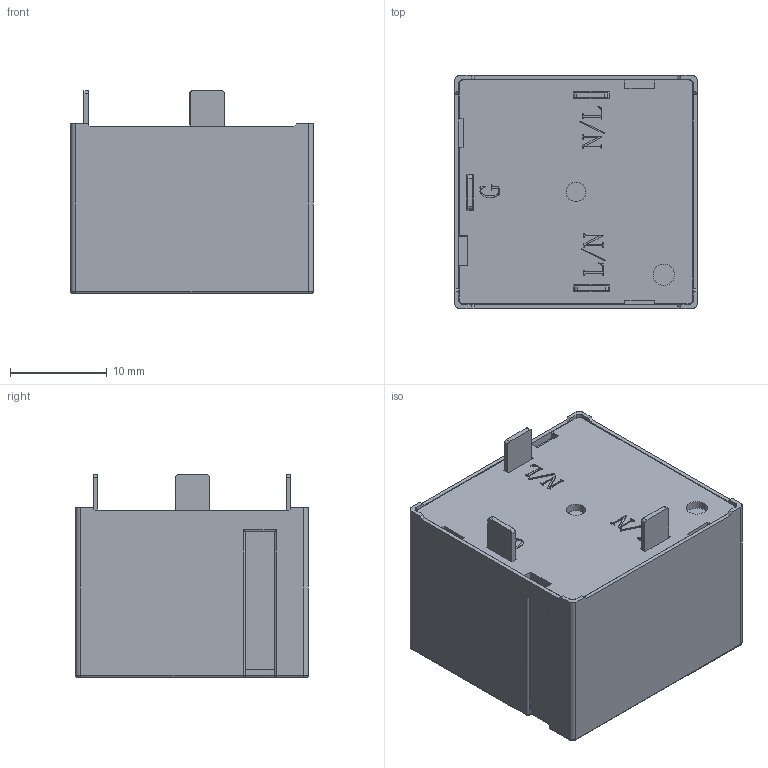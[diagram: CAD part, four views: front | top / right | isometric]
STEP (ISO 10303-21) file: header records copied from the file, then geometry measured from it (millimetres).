
FILE_DESCRIPTION((''),'2;1');
FILE_NAME('15S_ASM','2020-06-17T09:58:52',('youlianqiao'),(''),'CREO PARAMETRIC BY PTC INC, 2019080','CREO PARAMETRIC BY PTC INC, 2019080','');
FILE_SCHEMA(('CONFIG_CONTROL_DESIGN'));
Length unit declared in the file: millimetre
Products named in the file (1): 15S_ASM
Bounding box: 25 x 24 x 20.9 mm (x, y, z)
Volume: 10182.9 mm3; surface area: 3525 mm2
Topology: 1 solids, 4 shells, 313 faces, 878 edges, 590 vertices
Faces by surface type: plane 218, cylinder 50, extrusion 37, sphere 4, torus 4
Entity records: 10398 total; most frequent: CARTESIAN_POINT 2315, ORIENTED_EDGE 1756, DIRECTION 1501, EDGE_CURVE 878, VECTOR 701, LINE 664, VERTEX_POINT 590, AXIS2_PLACEMENT_3D 400
